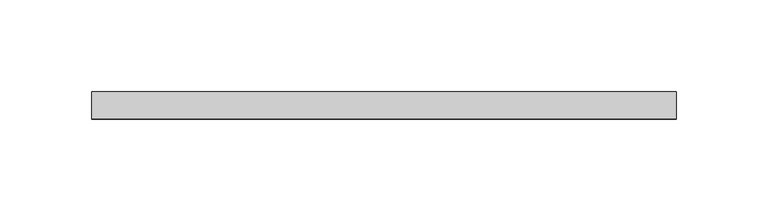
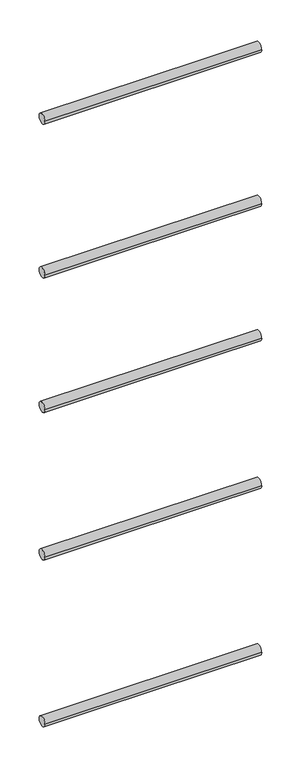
"""IFC4 building model written with IfcOpenShell, lengths in millimetres: railing geometry, ARQ-BA-IN-HiGal-Varillas."""

from ifc_helpers import new_model, si_unit, point, frame, frame_2d, origin, place, context, project, spatial, circle_curve, trimmed, segment, composite_curve, outline, extrude, source, transform, mapped, element, save


def railing_628c0022(model_context):
    return source(origin(), model_context, "Body", "SweptSolid", [
        extrude(outline(composite_curve([segment(trimmed(circle_curve(frame_2d((6435.6072273, 6112.5)), 7.5), [point((6428.1072273, 6112.5))], [point((6443.1072273, 6112.5))], False, "CARTESIAN"), True, "CONTINUOUS"), segment(trimmed(circle_curve(frame_2d((6435.6072273, 6112.5)), 7.5), [point((6443.1072273, 6112.5))], [point((6428.1072273, 6112.5))], False, "CARTESIAN"), True, "CONTINUOUS")], self_intersect=False)), frame((6034.2897792, 0.0, 0.0), z_axis=(1.0, 0.0, 0.0), x_axis=(0.0, 1.0, 0.0)), (0.0, 0.0, 1.0), 319.522847),
        extrude(outline(composite_curve([segment(trimmed(circle_curve(frame_2d((6435.6072273, 5872.5)), 7.5), [point((6428.1072273, 5872.5))], [point((6443.1072273, 5872.5))], False, "CARTESIAN"), True, "CONTINUOUS"), segment(trimmed(circle_curve(frame_2d((6435.6072273, 5872.5)), 7.5), [point((6443.1072273, 5872.5))], [point((6428.1072273, 5872.5))], False, "CARTESIAN"), True, "CONTINUOUS")], self_intersect=False)), frame((6034.2897792, 0.0, 0.0), z_axis=(1.0, 0.0, 0.0), x_axis=(0.0, 1.0, 0.0)), (0.0, 0.0, 1.0), 319.522847),
        extrude(outline(composite_curve([segment(trimmed(circle_curve(frame_2d((6435.6072273, 5662.5)), 7.5), [point((6428.1072273, 5662.5))], [point((6443.1072273, 5662.5))], False, "CARTESIAN"), True, "CONTINUOUS"), segment(trimmed(circle_curve(frame_2d((6435.6072273, 5662.5)), 7.5), [point((6443.1072273, 5662.5))], [point((6428.1072273, 5662.5))], False, "CARTESIAN"), True, "CONTINUOUS")], self_intersect=False)), frame((6034.2897792, 0.0, 0.0), z_axis=(1.0, 0.0, 0.0), x_axis=(0.0, 1.0, 0.0)), (0.0, 0.0, 1.0), 319.522847),
        extrude(outline(composite_curve([segment(trimmed(circle_curve(frame_2d((6435.6072273, 5432.5)), 7.5), [point((6428.1072273, 5432.5))], [point((6443.1072273, 5432.5))], False, "CARTESIAN"), True, "CONTINUOUS"), segment(trimmed(circle_curve(frame_2d((6435.6072273, 5432.5)), 7.5), [point((6443.1072273, 5432.5))], [point((6428.1072273, 5432.5))], False, "CARTESIAN"), True, "CONTINUOUS")], self_intersect=False)), frame((6034.2897792, 0.0, 0.0), z_axis=(1.0, 0.0, 0.0), x_axis=(0.0, 1.0, 0.0)), (0.0, 0.0, 1.0), 319.522847),
        extrude(outline(composite_curve([segment(trimmed(circle_curve(frame_2d((6435.6072273, 5172.5)), 7.5), [point((6428.1072273, 5172.5))], [point((6443.1072273, 5172.5))], False, "CARTESIAN"), True, "CONTINUOUS"), segment(trimmed(circle_curve(frame_2d((6435.6072273, 5172.5)), 7.5), [point((6443.1072273, 5172.5))], [point((6428.1072273, 5172.5))], False, "CARTESIAN"), True, "CONTINUOUS")], self_intersect=False)), frame((6034.2897792, 0.0, 0.0), z_axis=(1.0, 0.0, 0.0), x_axis=(0.0, 1.0, 0.0)), (0.0, 0.0, 1.0), 319.522847),
    ])


if __name__ == "__main__":
    model = new_model("IFC4")
    model_context = context("Model", 3, world=origin())
    ifc_project = project(units=[si_unit("LENGTHUNIT", "METRE", prefix="MILLI")], contexts=[model_context])
    site = spatial("IfcSite", under=ifc_project)
    building = spatial("IfcBuilding", under=site)
    placement = place(None, origin())
    railing_shape = railing_628c0022(model_context)
    element("IfcRailing", 1, ObjectType="ARQ-BA-IN-HiGal-Varillas", at=placement, inside=building, context=model_context, shape_type="MappedRepresentation", body=[
        mapped(railing_shape, transform((0.0, 0.0, 0.0), x_axis=(1.0, 0.0, 0.0), y_axis=(0.0, 1.0, 0.0), z_axis=(0.0, 0.0, 1.0))),
    ])
    save(model, "model.ifc")
